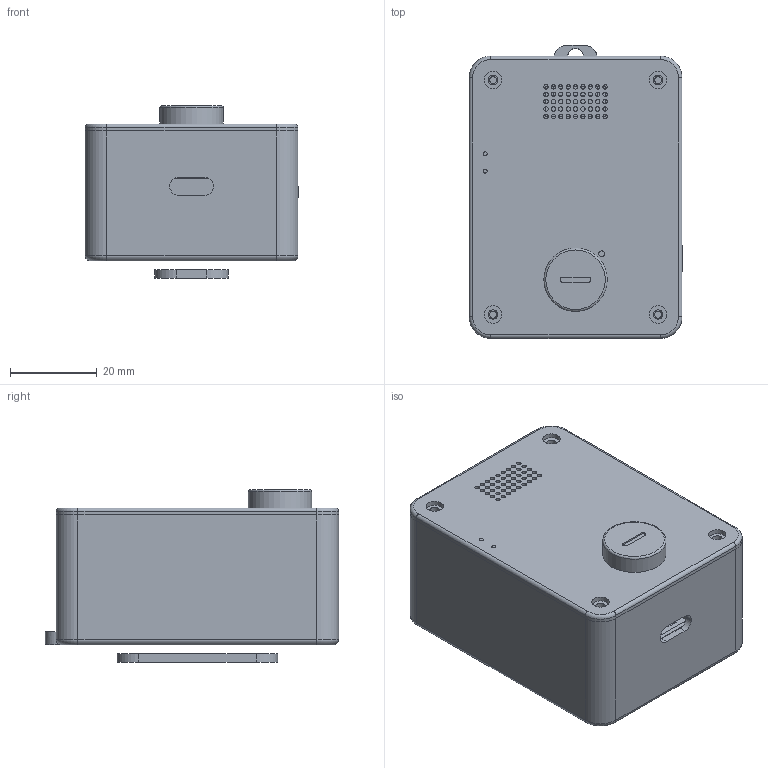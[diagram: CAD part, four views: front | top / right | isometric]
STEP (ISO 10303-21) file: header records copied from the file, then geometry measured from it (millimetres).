
FILE_DESCRIPTION(('Open CASCADE Model'),'2;1');
FILE_NAME('Open CASCADE Shape Model','2026-09-08T13:45:13',('Author'),( 'Open CASCADE'),'Open CASCADE STEP processor 7.9','Open CASCADE 7.9' ,'Unknown');
FILE_SCHEMA(('AUTOMOTIVE_DESIGN { 1 0 10303 214 1 1 1 1 }'));
Length unit declared in the file: millimetre
Products named in the file (1): COMPOUND
Bounding box: 49.2 x 67.5 x 39.7 mm (x, y, z)
Volume: 28118.8 mm3; surface area: 38674.9 mm2
Topology: 9 solids, 9 shells, 385 faces, 957 edges, 632 vertices
Faces by surface type: plane 205, cylinder 168, torus 9, bspline 3
Full cylindrical faces by diameter (mm): 0.9 x4, 1 x45, 1.3 x1, 1.4 x4, 1.6 x4, 1.8 x2, 2.2 x4, 2.4 x2, 4 x6, 4.6 x8, 6.3 x4, 9 x1, 11 x2, 11.5 x1, 14.6 x1
Entity records: 27778 total; most frequent: CARTESIAN_POINT 8444, DIRECTION 3537, ORIENTED_EDGE 1914, PCURVE 1914, DEFINITIONAL_REPRESENTATION 1914, LINE 1788, VECTOR 1788, EDGE_CURVE 957
